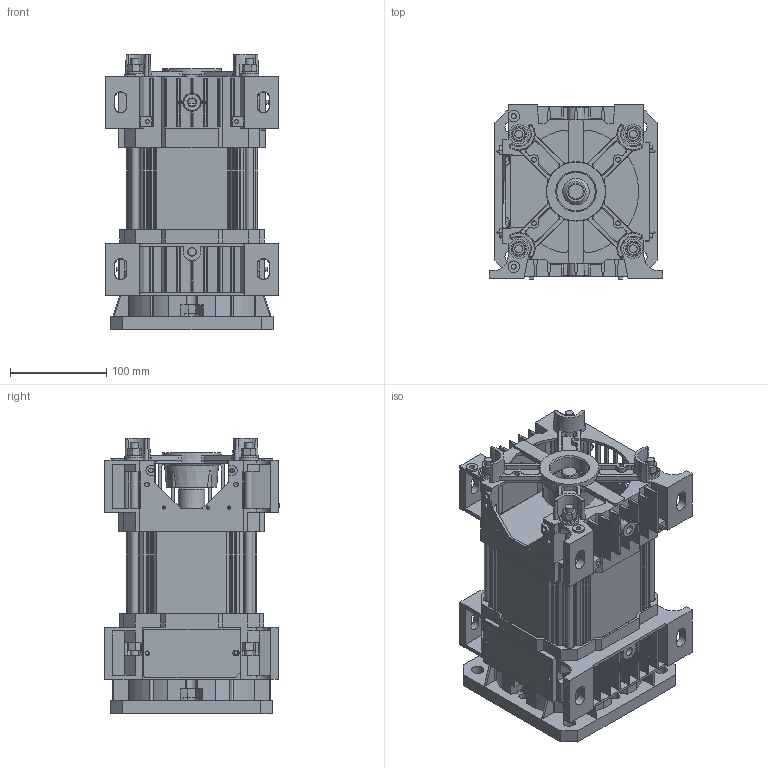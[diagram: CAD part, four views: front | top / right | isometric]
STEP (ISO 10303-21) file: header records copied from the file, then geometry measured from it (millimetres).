
FILE_DESCRIPTION(/* description */ ('Motore Tipo S34 Fl.155 F19-H110 NO Vol. NO Piedi'),/* implementation_level */ '2;1');
FILE_NAME(/* name */ 'Y:\ServerTecnico\Mockup Motori x Sito Elmo\Mockup Tipo S34 Size 3 FL155 F19-H95 NO Volano.stp',/* time_stamp */ '2016-10-07T15:23:28+02:00',/* author */ ('aparmini'),/* organization */ (''),/* preprocessor_version */ 'ST-DEVELOPER v16.5',/* originating_system */ 'Autodesk Inventor 2017',/* authorisation */ '');
FILE_SCHEMA (('AUTOMOTIVE_DESIGN { 1 0 10303 214 3 1 1 }'));
Products named in the file (8): Mockup Tipo S34 Size 3 FL155 F19-H95 NO Volano; Mockup CP3XD040N; Mockup CA3ND155Q; Mockup Statore Size 3 - F19-H95; TGS10; TI08ML220; UNI 5587 - M8; DIN 125-2 - B 8,4
Assembly tree (20 placements, depth 2):
  Mockup Tipo S34 Size 3 FL155 F19-H95 NO Volano
    Mockup CP3XD040N
    Mockup CA3ND155Q
    Mockup Statore Size 3 - F19-H95
    TGS10
    UNI 5587 - M8  x8
    TI08ML220  x4
    DIN 125-2 - B 8,4  x4
Bounding box: 180 x 181 x 286 mm (x, y, z)
Volume: 2600811.3 mm3; surface area: 541992.3 mm2
Topology: 20 solids, 20 shells, 1909 faces, 5299 edges, 3428 vertices
Faces by surface type: plane 1048, cylinder 410, cone 340, bspline 86, torus 25
Full cylindrical faces by diameter (mm): 3.2 x3, 4 x8, 4.917 x4, 5 x2, 6.647 x8, 8 x4, 8.4 x4, 12 x2, 13 x4, 16 x4, 17 x1, 19 x1, 20 x4, 21 x1, 27.5 x1, 32 x1, 40 x2, 40.1 x1, 42.5 x1, 46 x1, 81 x1, 155 x1
Entity records: 58873 total; most frequent: CARTESIAN_POINT 13130, ORIENTED_EDGE 9592, DIRECTION 9568, EDGE_CURVE 4796, AXIS2_PLACEMENT_3D 3303, VERTEX_POINT 3187, LINE 2962, VECTOR 2962
